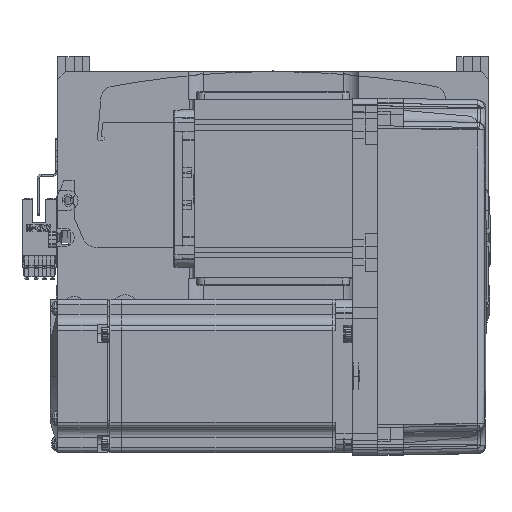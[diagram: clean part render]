
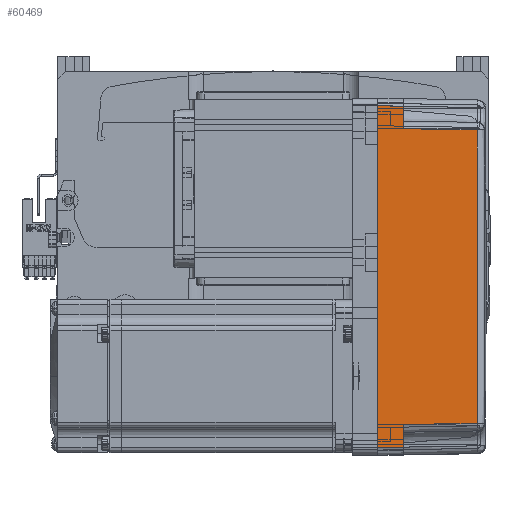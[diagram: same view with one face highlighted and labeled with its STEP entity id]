
A CAD part, top view. The second image highlights one B-rep face of the part: STEP entity #60469.
In plain terms, the highlighted planar face has unit normal (0.018, 0, 1) as drawn and (0, 1, 0.017) by its records, which use the part's own axes.
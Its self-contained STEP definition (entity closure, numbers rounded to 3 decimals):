
#1039 = ORIENTED_EDGE ( 'NONE', *, *, #30140, .F. ) ;
#2047 = CARTESIAN_POINT ( 'NONE',  ( -66.826, 35.825, 10. ) ) ;
#2053 = DIRECTION ( 'NONE',  ( 1., 0., 0. ) ) ;
#2917 = B_SPLINE_CURVE_WITH_KNOTS ( 'NONE', 3,
 ( #20345, #15141, #64174, #15614 ),
 .UNSPECIFIED., .F., .F.,
 ( 4, 4 ),
 ( 0., 1. ),
 .UNSPECIFIED. ) ;
#2941 = CARTESIAN_POINT ( 'NONE',  ( 70., 36., 0. ) ) ;
#6635 = ORIENTED_EDGE ( 'NONE', *, *, #9827, .T. ) ;
#7208 = DIRECTION ( 'NONE',  ( 1., 0., 0. ) ) ;
#8720 = EDGE_CURVE ( 'NONE', #18320, #64432, #17265, .T. ) ;
#8812 = DIRECTION ( 'NONE',  ( 0., -0.017, 1. ) ) ;
#8998 = DIRECTION ( 'NONE',  ( 1., 0., 0. ) ) ;
#9827 = EDGE_CURVE ( 'NONE', #45865, #18320, #11153, .T. ) ;
#11133 = EDGE_LOOP ( 'NONE', ( #48296, #13225, #53783, #70164, #6635, #40429, #1039, #16332 ) ) ;
#11153 = LINE ( 'NONE', #36170, #61978 ) ;
#12638 = EDGE_CURVE ( 'NONE', #42779, #29726, #40247, .T. ) ;
#12779 = CARTESIAN_POINT ( 'NONE',  ( -67., 36., 0. ) ) ;
#13225 = ORIENTED_EDGE ( 'NONE', *, *, #12638, .T. ) ;
#13638 = CARTESIAN_POINT ( 'NONE',  ( -58., 35.825, 10. ) ) ;
#14375 = CARTESIAN_POINT ( 'NONE',  ( 67.001, 36.001, -0.052 ) ) ;
#15019 = EDGE_CURVE ( 'NONE', #26062, #60699, #28239, .T. ) ;
#15141 = CARTESIAN_POINT ( 'NONE',  ( -19.165, 35.316, 39.181 ) ) ;
#15510 = DIRECTION ( 'NONE',  ( 0.017, -0.017, 1. ) ) ;
#15614 = CARTESIAN_POINT ( 'NONE',  ( 57.495, 35.32, 38.985 ) ) ;
#16332 = ORIENTED_EDGE ( 'NONE', *, *, #15019, .F. ) ;
#17265 = LINE ( 'NONE', #22809, #56244 ) ;
#18320 = VERTEX_POINT ( 'NONE', #32107 ) ;
#18560 = LINE ( 'NONE', #14375, #59204 ) ;
#20345 = CARTESIAN_POINT ( 'NONE',  ( -57.495, 35.32, 38.985 ) ) ;
#22809 = CARTESIAN_POINT ( 'NONE',  ( 70., 35.825, 10. ) ) ;
#25362 = DIRECTION ( 'NONE',  ( 0., 1., 0.017 ) ) ;
#25803 = CARTESIAN_POINT ( 'NONE',  ( 70., 35.825, 10. ) ) ;
#26062 = VERTEX_POINT ( 'NONE', #37246 ) ;
#26309 = VERTEX_POINT ( 'NONE', #66312 ) ;
#28239 = LINE ( 'NONE', #60997, #40893 ) ;
#28507 = VECTOR ( 'NONE', #15510, 1000. ) ;
#29726 = VERTEX_POINT ( 'NONE', #42190 ) ;
#30140 = EDGE_CURVE ( 'NONE', #60699, #64432, #18560, .T. ) ;
#31758 = CARTESIAN_POINT ( 'NONE',  ( 67., 36., 0. ) ) ;
#32107 = CARTESIAN_POINT ( 'NONE',  ( 58., 35.825, 10. ) ) ;
#33755 = EDGE_CURVE ( 'NONE', #26309, #45865, #2917, .T. ) ;
#34371 = VECTOR ( 'NONE', #8998, 1000. ) ;
#36170 = CARTESIAN_POINT ( 'NONE',  ( 57.495, 35.32, 38.985 ) ) ;
#36312 = LINE ( 'NONE', #12779, #63395 ) ;
#36415 = DIRECTION ( 'NONE',  ( 0.017, 0.017, -1. ) ) ;
#37246 = CARTESIAN_POINT ( 'NONE',  ( -67., 36., 0. ) ) ;
#38793 = CARTESIAN_POINT ( 'NONE',  ( 66.826, 35.825, 10. ) ) ;
#40247 = LINE ( 'NONE', #25803, #34371 ) ;
#40429 = ORIENTED_EDGE ( 'NONE', *, *, #8720, .T. ) ;
#40893 = VECTOR ( 'NONE', #2053, 1000. ) ;
#42190 = CARTESIAN_POINT ( 'NONE',  ( -58., 35.825, 10. ) ) ;
#42779 = VERTEX_POINT ( 'NONE', #2047 ) ;
#44278 = AXIS2_PLACEMENT_3D ( 'NONE', #2941, #25362, #8812 ) ;
#45056 = PLANE ( 'NONE',  #44278 ) ;
#45865 = VERTEX_POINT ( 'NONE', #64639 ) ;
#48296 = ORIENTED_EDGE ( 'NONE', *, *, #59523, .T. ) ;
#53783 = ORIENTED_EDGE ( 'NONE', *, *, #66547, .T. ) ;
#56244 = VECTOR ( 'NONE', #7208, 1000. ) ;
#56792 = DIRECTION ( 'NONE',  ( 0.017, -0.017, 1. ) ) ;
#57241 = LINE ( 'NONE', #13638, #28507 ) ;
#58176 = DIRECTION ( 'NONE',  ( -0.017, -0.017, 1. ) ) ;
#59204 = VECTOR ( 'NONE', #58176, 1000. ) ;
#59523 = EDGE_CURVE ( 'NONE', #26062, #42779, #36312, .T. ) ;
#60469 = ADVANCED_FACE ( 'NONE', ( #65781 ), #45056, .T. ) ;
#60699 = VERTEX_POINT ( 'NONE', #31758 ) ;
#60997 = CARTESIAN_POINT ( 'NONE',  ( 0., 36., 0. ) ) ;
#61978 = VECTOR ( 'NONE', #36415, 1000. ) ;
#63395 = VECTOR ( 'NONE', #56792, 1000. ) ;
#64174 = CARTESIAN_POINT ( 'NONE',  ( 19.165, 35.316, 39.181 ) ) ;
#64432 = VERTEX_POINT ( 'NONE', #38793 ) ;
#64639 = CARTESIAN_POINT ( 'NONE',  ( 57.495, 35.32, 38.985 ) ) ;
#65781 = FACE_OUTER_BOUND ( 'NONE', #11133, .T. ) ;
#66312 = CARTESIAN_POINT ( 'NONE',  ( -57.495, 35.32, 38.985 ) ) ;
#66547 = EDGE_CURVE ( 'NONE', #29726, #26309, #57241, .T. ) ;
#70164 = ORIENTED_EDGE ( 'NONE', *, *, #33755, .T. ) ;
